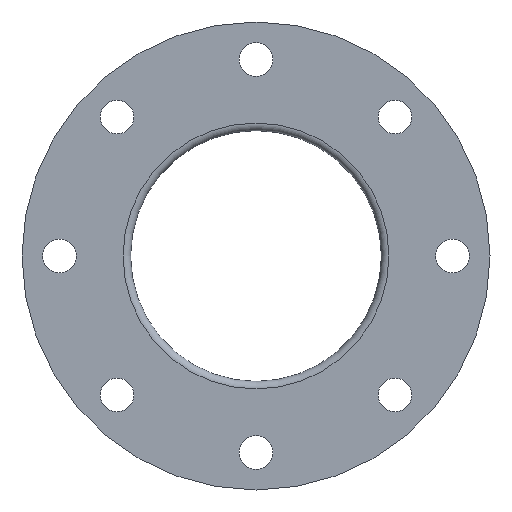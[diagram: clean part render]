
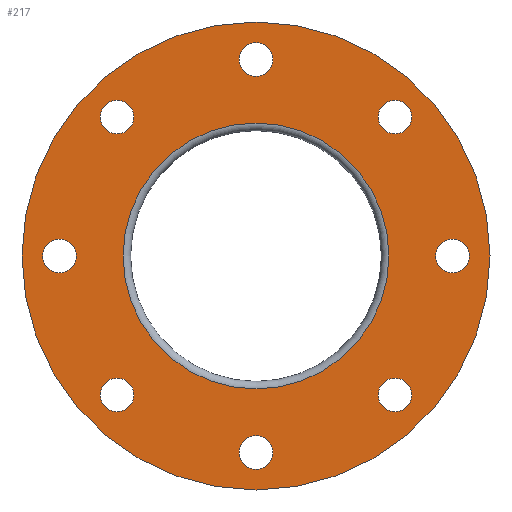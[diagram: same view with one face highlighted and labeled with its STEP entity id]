
A CAD part, front view. The second image highlights one B-rep face of the part: STEP entity #217.
In plain terms, the highlighted planar face has unit normal (0, -1, 0).
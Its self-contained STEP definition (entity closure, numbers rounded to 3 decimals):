
#13=PLANE($,#236);
#27=FACE_BOUND($,#72,.T.);
#28=FACE_BOUND($,#73,.T.);
#29=FACE_BOUND($,#74,.T.);
#30=FACE_BOUND($,#75,.T.);
#31=FACE_BOUND($,#76,.T.);
#32=FACE_BOUND($,#77,.T.);
#33=FACE_BOUND($,#78,.T.);
#34=FACE_BOUND($,#79,.T.);
#35=FACE_BOUND($,#80,.T.);
#57=FACE_OUTER_BOUND($,#71,.T.);
#71=EDGE_LOOP($,(#176));
#72=EDGE_LOOP($,(#177));
#73=EDGE_LOOP($,(#178));
#74=EDGE_LOOP($,(#179));
#75=EDGE_LOOP($,(#180));
#76=EDGE_LOOP($,(#181));
#77=EDGE_LOOP($,(#182));
#78=EDGE_LOOP($,(#183));
#79=EDGE_LOOP($,(#184));
#80=EDGE_LOOP($,(#185));
#110=CIRCLE($,#233,71.);
#112=CIRCLE($,#237,125.);
#113=CIRCLE($,#238,9.);
#114=CIRCLE($,#239,9.);
#115=CIRCLE($,#240,9.);
#116=CIRCLE($,#241,9.);
#117=CIRCLE($,#242,9.);
#118=CIRCLE($,#243,9.);
#119=CIRCLE($,#244,9.);
#120=CIRCLE($,#245,9.);
#131=VERTEX_POINT($,#339);
#133=VERTEX_POINT($,#345);
#134=VERTEX_POINT($,#347);
#135=VERTEX_POINT($,#349);
#136=VERTEX_POINT($,#351);
#137=VERTEX_POINT($,#353);
#138=VERTEX_POINT($,#355);
#139=VERTEX_POINT($,#357);
#140=VERTEX_POINT($,#359);
#141=VERTEX_POINT($,#361);
#152=EDGE_CURVE($,#131,#131,#110,.T.);
#154=EDGE_CURVE($,#133,#133,#112,.T.);
#155=EDGE_CURVE($,#134,#134,#113,.T.);
#156=EDGE_CURVE($,#135,#135,#114,.T.);
#157=EDGE_CURVE($,#136,#136,#115,.T.);
#158=EDGE_CURVE($,#137,#137,#116,.T.);
#159=EDGE_CURVE($,#138,#138,#117,.T.);
#160=EDGE_CURVE($,#139,#139,#118,.T.);
#161=EDGE_CURVE($,#140,#140,#119,.T.);
#162=EDGE_CURVE($,#141,#141,#120,.T.);
#176=ORIENTED_EDGE($,*,*,#154,.F.);
#177=ORIENTED_EDGE($,*,*,#155,.T.);
#178=ORIENTED_EDGE($,*,*,#156,.T.);
#179=ORIENTED_EDGE($,*,*,#157,.T.);
#180=ORIENTED_EDGE($,*,*,#158,.T.);
#181=ORIENTED_EDGE($,*,*,#159,.T.);
#182=ORIENTED_EDGE($,*,*,#160,.T.);
#183=ORIENTED_EDGE($,*,*,#161,.T.);
#184=ORIENTED_EDGE($,*,*,#162,.T.);
#185=ORIENTED_EDGE($,*,*,#152,.F.);
#217=ADVANCED_FACE($,(#57,#27,#28,#29,#30,#31,#32,#33,#34,#35),#13,.T.);
#233=AXIS2_PLACEMENT_3D($,#340,#271,#272);
#236=AXIS2_PLACEMENT_3D($,#344,#277,#278);
#237=AXIS2_PLACEMENT_3D($,#346,#279,#280);
#238=AXIS2_PLACEMENT_3D($,#348,#281,#282);
#239=AXIS2_PLACEMENT_3D($,#350,#283,#284);
#240=AXIS2_PLACEMENT_3D($,#352,#285,#286);
#241=AXIS2_PLACEMENT_3D($,#354,#287,#288);
#242=AXIS2_PLACEMENT_3D($,#356,#289,#290);
#243=AXIS2_PLACEMENT_3D($,#358,#291,#292);
#244=AXIS2_PLACEMENT_3D($,#360,#293,#294);
#245=AXIS2_PLACEMENT_3D($,#362,#295,#296);
#271=DIRECTION('center_axis',(0.,-1.,0.));
#272=DIRECTION('ref_axis',(1.,0.,0.));
#277=DIRECTION('center_axis',(0.,-1.,0.));
#278=DIRECTION('ref_axis',(0.,0.,-1.));
#279=DIRECTION('center_axis',(0.,1.,0.));
#280=DIRECTION('ref_axis',(-1.,0.,0.));
#281=DIRECTION('center_axis',(0.,1.,0.));
#282=DIRECTION('ref_axis',(1.,0.,0.));
#283=DIRECTION('center_axis',(0.,1.,0.));
#284=DIRECTION('ref_axis',(0.707,0.,-0.707));
#285=DIRECTION('center_axis',(0.,1.,0.));
#286=DIRECTION('ref_axis',(0.,0.,-1.));
#287=DIRECTION('center_axis',(0.,1.,0.));
#288=DIRECTION('ref_axis',(-0.707,0.,-0.707));
#289=DIRECTION('center_axis',(0.,1.,0.));
#290=DIRECTION('ref_axis',(-1.,0.,0.));
#291=DIRECTION('center_axis',(0.,1.,0.));
#292=DIRECTION('ref_axis',(-0.707,0.,0.707));
#293=DIRECTION('center_axis',(0.,1.,0.));
#294=DIRECTION('ref_axis',(0.,0.,1.));
#295=DIRECTION('center_axis',(0.,1.,0.));
#296=DIRECTION('ref_axis',(0.707,0.,0.707));
#339=CARTESIAN_POINT('',(-71.,0.,0.));
#340=CARTESIAN_POINT('Origin',(0.,0.,0.));
#344=CARTESIAN_POINT('Origin',(-62.5,0.,0.));
#345=CARTESIAN_POINT('',(-125.,0.,0.));
#346=CARTESIAN_POINT('Origin',(0.,0.,0.));
#347=CARTESIAN_POINT('',(96.,0.,0.));
#348=CARTESIAN_POINT('Origin',(105.,0.,0.));
#349=CARTESIAN_POINT('',(67.882,0.,-67.882));
#350=CARTESIAN_POINT('Origin',(74.246,0.,-74.246));
#351=CARTESIAN_POINT('',(0.,0.,-96.));
#352=CARTESIAN_POINT('Origin',(0.,0.,-105.));
#353=CARTESIAN_POINT('',(-67.882,0.,-67.882));
#354=CARTESIAN_POINT('Origin',(-74.246,0.,-74.246));
#355=CARTESIAN_POINT('',(-96.,0.,0.));
#356=CARTESIAN_POINT('Origin',(-105.,0.,0.));
#357=CARTESIAN_POINT('',(-67.882,0.,67.882));
#358=CARTESIAN_POINT('Origin',(-74.246,0.,74.246));
#359=CARTESIAN_POINT('',(0.,0.,96.));
#360=CARTESIAN_POINT('Origin',(0.,0.,105.));
#361=CARTESIAN_POINT('',(67.882,0.,67.882));
#362=CARTESIAN_POINT('Origin',(74.246,0.,74.246));
